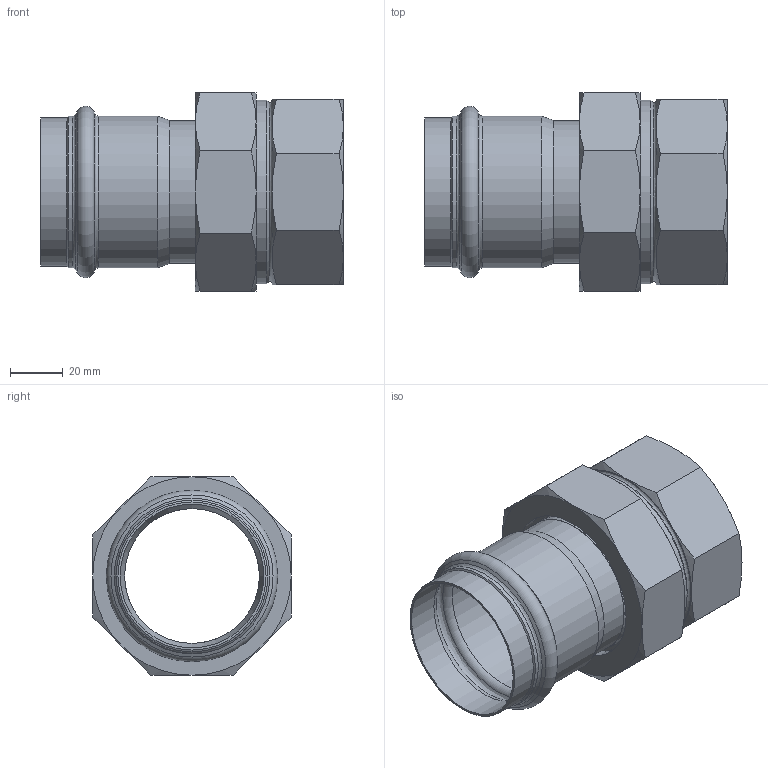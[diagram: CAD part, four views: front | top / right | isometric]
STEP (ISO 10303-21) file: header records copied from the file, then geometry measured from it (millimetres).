
FILE_DESCRIPTION((''),'2;1');
FILE_NAME('G:\Nirosan-Schmiedefeld\Technics\CAD\Bauteile VA\054\69330g542(2).stp','2011-05-23T13:56:44',('herberg'),(''),'Autodesk Inventor 2009','Autodesk Inventor 2009','');
FILE_SCHEMA(('AUTOMOTIVE_DESIGN { 1 0 10303 214 1 1 1 1 }'));
Length unit declared in the file: millimetre
Products named in the file (7): 69330g542(2); 69359mms54238(1); HM_6924354(1); R54238(1); FD_6555_EPDM(0); MS_AM54238(1); 69370G2382(0)
Assembly tree (6 placements, depth 3):
  69330g542(2)
    69359mms54238(1)
      HM_6924354(1)
      R54238(1)
      FD_6555_EPDM(0)
      MS_AM54238(1)
    69370G2382(0)
Bounding box: 114.5 x 75 x 75 mm (x, y, z)
Volume: 126098.4 mm3; surface area: 65970.9 mm2
Topology: 5 solids, 5 shells, 99 faces, 199 edges, 114 vertices
Faces by surface type: cone 44, plane 28, cylinder 13, bspline 11, torus 3
Full cylindrical faces by diameter (mm): 51 x2, 54 x2, 54.35 x2, 55 x1, 55.95 x1, 57.35 x2, 65 x2, 69.398 x1
Entity records: 2795 total; most frequent: CARTESIAN_POINT 844, DIRECTION 380, ORIENTED_EDGE 322, AXIS2_PLACEMENT_3D 182, EDGE_CURVE 161, EDGE_LOOP 150, VERTEX_POINT 113, FACE_OUTER_BOUND 99
